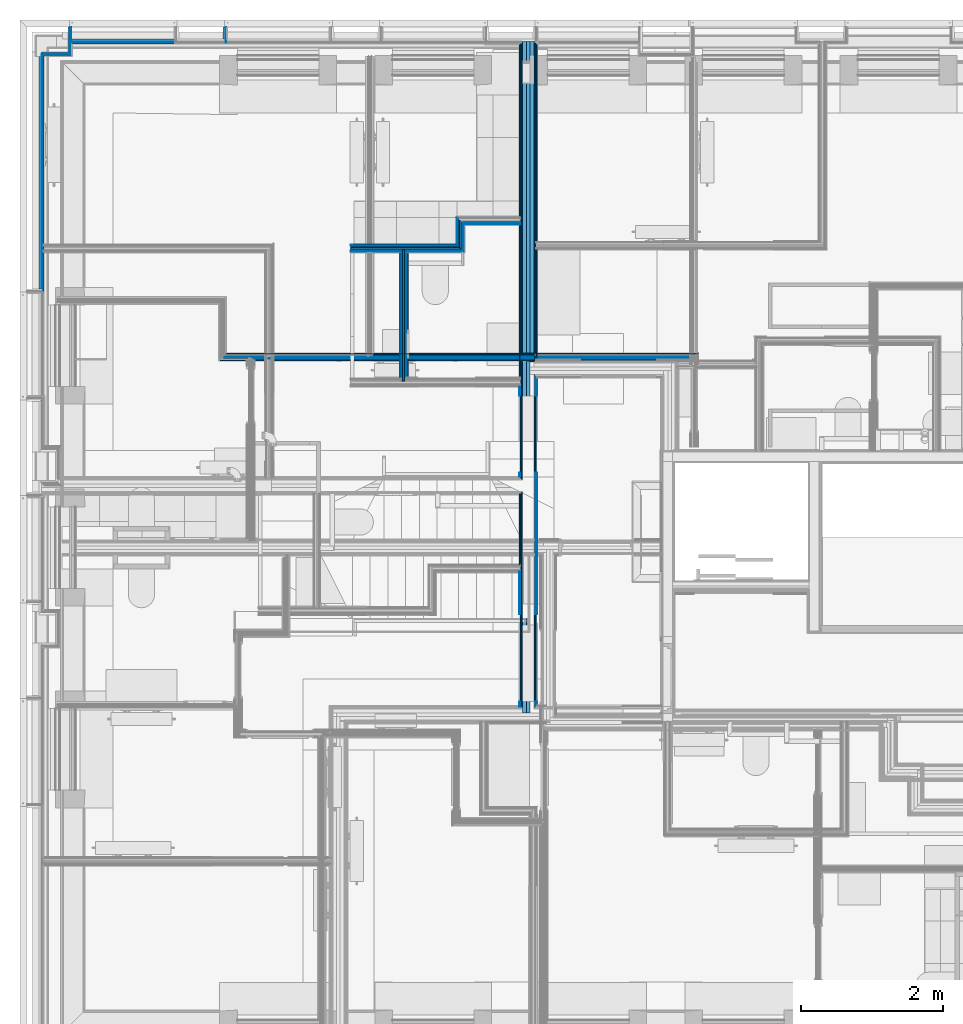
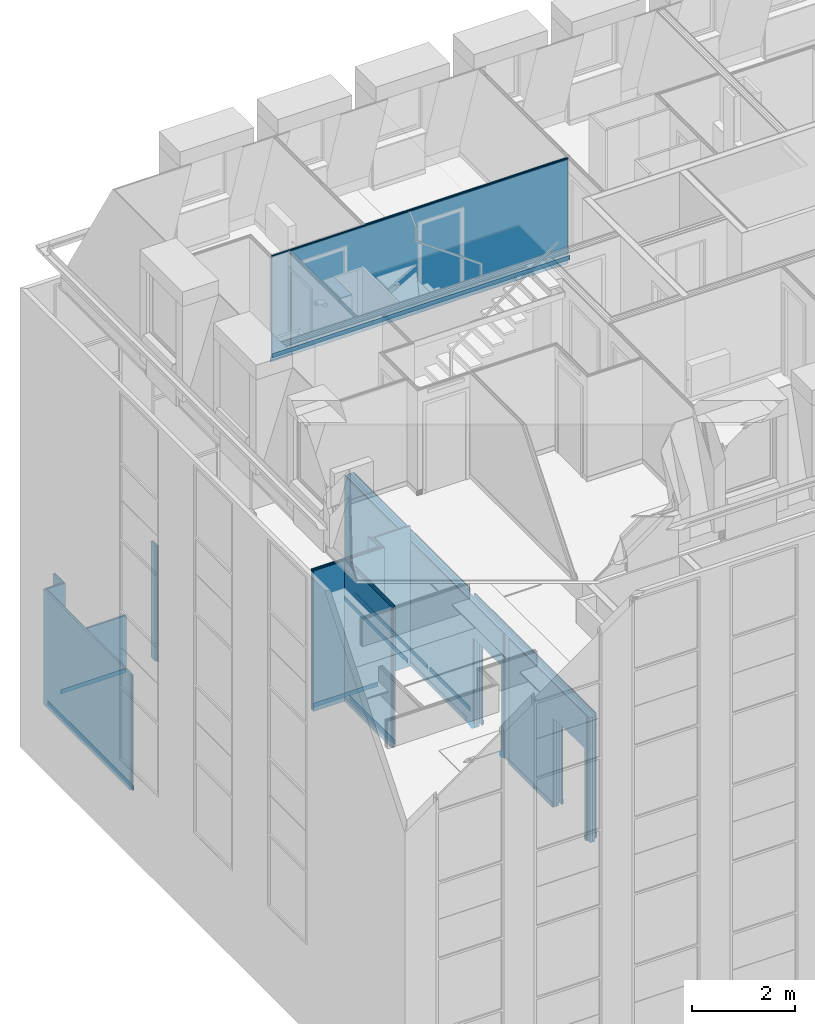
# One storey, part 26 of 169: 62 building element parts, 3 openings, 11 elements without a shape of their own.
"""IFC2X3 building model written with IfcOpenShell, lengths in metres."""

from ifc_helpers import new_model, entity, si_unit, converted_unit, derived_unit, money_unit, direction, frame, frame_2d, origin_with_axes, place, context, subcontext, project, spatial, polyline, rectangle, outline, extrude, material, type_object, element, aggregate, save


model = new_model("IFC2X3")

# Units and contexts
model_context = context("Model", 3, precision=1e-05, world=origin_with_axes(), true_north=direction((0.0, 1.0)))
body_context = subcontext(model_context, "Body", "Model", "MODEL_VIEW", scale=1.0)
ifc_project = project(units=[si_unit("LENGTHUNIT", "METRE"), si_unit("AREAUNIT", "SQUARE_METRE"), si_unit("VOLUMEUNIT", "CUBIC_METRE"), si_unit("ABSORBEDDOSEUNIT", "GRAY"), si_unit("AMOUNTOFSUBSTANCEUNIT", "MOLE"), si_unit("DOSEEQUIVALENTUNIT", "SIEVERT"), si_unit("ELECTRICCAPACITANCEUNIT", "FARAD"), si_unit("ELECTRICCHARGEUNIT", "COULOMB"), si_unit("ELECTRICCONDUCTANCEUNIT", "SIEMENS"), si_unit("ELECTRICCURRENTUNIT", "AMPERE"), si_unit("ELECTRICRESISTANCEUNIT", "OHM"), si_unit("ELECTRICVOLTAGEUNIT", "VOLT"), si_unit("ENERGYUNIT", "JOULE"), si_unit("FORCEUNIT", "NEWTON"), si_unit("FREQUENCYUNIT", "HERTZ"), si_unit("ILLUMINANCEUNIT", "LUX"), si_unit("INDUCTANCEUNIT", "HENRY"), si_unit("LUMINOUSFLUXUNIT", "LUMEN"), si_unit("LUMINOUSINTENSITYUNIT", "CANDELA"), si_unit("MAGNETICFLUXDENSITYUNIT", "TESLA"), si_unit("MAGNETICFLUXUNIT", "WEBER"), si_unit("MASSUNIT", "GRAM"), converted_unit("PLANEANGLEUNIT", "degree", entity("IfcReal", 0.0174532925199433), si_unit("PLANEANGLEUNIT", "RADIAN"), dimensions=[0, 0, 0, 0, 0, 0, 0]), si_unit("POWERUNIT", "WATT"), si_unit("PRESSUREUNIT", "PASCAL"), si_unit("RADIOACTIVITYUNIT", "BECQUEREL"), si_unit("SOLIDANGLEUNIT", "STERADIAN"), si_unit("THERMODYNAMICTEMPERATUREUNIT", "KELVIN"), si_unit("TIMEUNIT", "SECOND"), derived_unit("ACCELERATIONUNIT", [(si_unit("LENGTHUNIT", "METRE"), 1), (si_unit("TIMEUNIT", "SECOND"), -2)]), derived_unit("ANGULARVELOCITYUNIT", [(converted_unit("PLANEANGLEUNIT", "degree", entity("IfcReal", 0.0174532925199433), si_unit("PLANEANGLEUNIT", "RADIAN"), dimensions=[0, 0, 0, 0, 0, 0, 0]), 1), (si_unit("TIMEUNIT", "SECOND"), -1)]), derived_unit("CURVATUREUNIT", [(converted_unit("PLANEANGLEUNIT", "degree", entity("IfcReal", 0.0174532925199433), si_unit("PLANEANGLEUNIT", "RADIAN"), dimensions=[0, 0, 0, 0, 0, 0, 0]), 1), (si_unit("LENGTHUNIT", "METRE"), -1)]), derived_unit("DYNAMICVISCOSITYUNIT", [(si_unit("PRESSUREUNIT", "PASCAL"), 1), (si_unit("TIMEUNIT", "SECOND"), 1)]), derived_unit("HEATFLUXDENSITYUNIT", [(si_unit("POWERUNIT", "WATT"), 1), (si_unit("LENGTHUNIT", "METRE"), -2)]), derived_unit("HEATINGVALUEUNIT", [(si_unit("ENERGYUNIT", "JOULE"), 1), (si_unit("MASSUNIT", "GRAM"), -1)]), derived_unit("INTEGERCOUNTRATEUNIT", [(si_unit("TIMEUNIT", "SECOND"), -1)]), derived_unit("IONCONCENTRATIONUNIT", [(si_unit("MASSUNIT", "GRAM"), 1), (si_unit("VOLUMEUNIT", "CUBIC_METRE"), -1)]), derived_unit("ISOTHERMALMOISTURECAPACITYUNIT", [(si_unit("VOLUMEUNIT", "CUBIC_METRE"), 1), (si_unit("MASSUNIT", "GRAM"), -1)]), derived_unit("KINEMATICVISCOSITYUNIT", [(si_unit("AREAUNIT", "SQUARE_METRE"), 1), (si_unit("TIMEUNIT", "SECOND"), -1)]), derived_unit("LINEARFORCEUNIT", [(si_unit("FORCEUNIT", "NEWTON"), 1), (si_unit("LENGTHUNIT", "METRE"), -1)]), derived_unit("LINEARMOMENTUNIT", [(si_unit("FORCEUNIT", "NEWTON"), 1), (si_unit("LENGTHUNIT", "METRE"), -1)]), derived_unit("LINEARSTIFFNESSUNIT", [(si_unit("FORCEUNIT", "NEWTON"), 1), (si_unit("LENGTHUNIT", "METRE"), -1)]), derived_unit("LINEARVELOCITYUNIT", [(si_unit("LENGTHUNIT", "METRE"), 1), (si_unit("TIMEUNIT", "SECOND"), -1)]), derived_unit("LUMINOUSINTENSITYDISTRIBUTIONUNIT", [(si_unit("LUMINOUSINTENSITYUNIT", "CANDELA"), 1), (si_unit("LUMINOUSFLUXUNIT", "LUMEN"), -1)]), derived_unit("MASSDENSITYUNIT", [(si_unit("MASSUNIT", "GRAM"), 1), (si_unit("VOLUMEUNIT", "CUBIC_METRE"), -1)]), derived_unit("MASSFLOWRATEUNIT", [(si_unit("MASSUNIT", "GRAM"), 1), (si_unit("TIMEUNIT", "SECOND"), -1)]), derived_unit("MASSPERLENGTHUNIT", [(si_unit("MASSUNIT", "GRAM"), 1), (si_unit("LENGTHUNIT", "METRE"), -1)]), derived_unit("MODULUSOFELASTICITYUNIT", [(si_unit("FORCEUNIT", "NEWTON"), 1), (si_unit("AREAUNIT", "SQUARE_METRE"), -1)]), derived_unit("MODULUSOFLINEARSUBGRADEREACTIONUNIT", [(si_unit("FORCEUNIT", "NEWTON"), 1), (si_unit("LENGTHUNIT", "METRE"), -2)]), derived_unit("MODULUSOFROTATIONALSUBGRADEREACTIONUNIT", [(si_unit("FORCEUNIT", "NEWTON"), 1), (si_unit("LENGTHUNIT", "METRE"), 1)]), derived_unit("MODULUSOFSUBGRADEREACTIONUNIT", [(si_unit("FORCEUNIT", "NEWTON"), 1), (si_unit("VOLUMEUNIT", "CUBIC_METRE"), -1)]), derived_unit("MOISTUREDIFFUSIVITYUNIT", [(si_unit("VOLUMEUNIT", "CUBIC_METRE"), 1), (si_unit("TIMEUNIT", "SECOND"), -1)]), derived_unit("MOLECULARWEIGHTUNIT", [(si_unit("MASSUNIT", "GRAM"), 1), (si_unit("AMOUNTOFSUBSTANCEUNIT", "MOLE"), -1)]), derived_unit("PLANARFORCEUNIT", [(si_unit("FORCEUNIT", "NEWTON"), 1), (si_unit("LENGTHUNIT", "METRE"), -2)]), derived_unit("ROTATIONALFREQUENCYUNIT", [(si_unit("TIMEUNIT", "SECOND"), -1)]), derived_unit("ROTATIONALMASSUNIT", [(si_unit("MASSUNIT", "GRAM"), 1), (si_unit("LENGTHUNIT", "METRE"), 2)]), derived_unit("ROTATIONALSTIFFNESSUNIT", [(si_unit("FORCEUNIT", "NEWTON"), 1), (si_unit("LENGTHUNIT", "METRE"), 1), (converted_unit("PLANEANGLEUNIT", "degree", entity("IfcReal", 0.0174532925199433), si_unit("PLANEANGLEUNIT", "RADIAN"), dimensions=[0, 0, 0, 0, 0, 0, 0]), -1)]), derived_unit("SECTIONAREAINTEGRALUNIT", [(si_unit("LENGTHUNIT", "METRE"), 5)]), derived_unit("SECTIONMODULUSUNIT", [(si_unit("LENGTHUNIT", "METRE"), 3)]), derived_unit("SHEARMODULUSUNIT", [(si_unit("FORCEUNIT", "NEWTON"), 1), (si_unit("AREAUNIT", "SQUARE_METRE"), -1)]), derived_unit("SOUNDPOWERUNIT", [(si_unit("ENERGYUNIT", "JOULE"), 1), (si_unit("TIMEUNIT", "SECOND"), -1)]), derived_unit("SPECIFICHEATCAPACITYUNIT", [(si_unit("FORCEUNIT", "NEWTON"), 1), (si_unit("MASSUNIT", "GRAM"), -1), (si_unit("THERMODYNAMICTEMPERATUREUNIT", "KELVIN"), -1)]), derived_unit("TEMPERATUREGRADIENTUNIT", [(si_unit("THERMODYNAMICTEMPERATUREUNIT", "KELVIN"), 1), (si_unit("LENGTHUNIT", "METRE"), -1)]), derived_unit("THERMALADMITTANCEUNIT", [(si_unit("POWERUNIT", "WATT"), 1), (si_unit("AREAUNIT", "SQUARE_METRE"), -1), (si_unit("THERMODYNAMICTEMPERATUREUNIT", "KELVIN"), -1)]), derived_unit("THERMALCONDUCTANCEUNIT", [(si_unit("POWERUNIT", "WATT"), 1), (si_unit("LENGTHUNIT", "METRE"), -1), (si_unit("THERMODYNAMICTEMPERATUREUNIT", "KELVIN"), -1)]), derived_unit("THERMALEXPANSIONCOEFFICIENTUNIT", [(si_unit("THERMODYNAMICTEMPERATUREUNIT", "KELVIN"), -1)]), derived_unit("THERMALRESISTANCEUNIT", [(si_unit("AREAUNIT", "SQUARE_METRE"), 1), (si_unit("POWERUNIT", "WATT"), -1)]), derived_unit("THERMALTRANSMITTANCEUNIT", [(si_unit("POWERUNIT", "WATT"), 1), (si_unit("AREAUNIT", "SQUARE_METRE"), -1), (si_unit("THERMODYNAMICTEMPERATUREUNIT", "KELVIN"), -1)]), derived_unit("TORQUEUNIT", [(si_unit("FORCEUNIT", "NEWTON"), 1), (si_unit("LENGTHUNIT", "METRE"), 1)]), derived_unit("VAPORPERMEABILITYUNIT", [(si_unit("MASSUNIT", "GRAM"), 1), (si_unit("TIMEUNIT", "SECOND"), -1)]), derived_unit("VOLUMETRICFLOWRATEUNIT", [(si_unit("VOLUMEUNIT", "CUBIC_METRE"), 1), (si_unit("TIMEUNIT", "SECOND"), -1)]), derived_unit("WARPINGCONSTANTUNIT", [(si_unit("LENGTHUNIT", "METRE"), 6)]), derived_unit("WARPINGMOMENTUNIT", [(si_unit("FORCEUNIT", "NEWTON"), 1), (si_unit("LENGTHUNIT", "METRE"), 2)]), money_unit("GBP")], contexts=[model_context])

# Site, building, storey
site_placement = place(None, origin_with_axes())
site = spatial("IfcSite", under=ifc_project, at=site_placement, Name="Site", CompositionType="ELEMENT")
building_placement = place(site_placement, origin_with_axes())
building = spatial("IfcBuilding", under=site, at=building_placement, Name="Building01", CompositionType="ELEMENT")
storey_placement = place(building_placement, frame((0.0, 0.0, 5.15), z_axis=(0.0, 0.0, 1.0), x_axis=(1.0, 0.0, 0.0)))
storey = spatial("IfcBuildingStorey", under=building, at=storey_placement, Name="1F", CompositionType="ELEMENT", Elevation=5.15)

# Wall, openings, building element parts
wall_type_1 = type_object("IfcWallType", Name="SHE_A-Walls_Type01c_Partywall_225mm_twin_tall", PredefinedType="NOTDEFINED")
wall_1_placement = place(storey_placement, frame((7.201669, 5.117, 0.0), z_axis=(0.0, 0.0, 1.0), x_axis=(0.0, 1.0, 0.0)))
wall_1 = element("IfcWall", 1, at=wall_1_placement, inside=storey, type_object=wall_type_1, Name="1C", ObjectType="SHE_A-Walls_Type01c_Partywall_225mm_twin_tall")
opening_1_placement = place(wall_1_placement, frame((0.307475, -0.103, -0.03), z_axis=(0.0, 0.0, 1.0), x_axis=(1.0, 0.0, 0.0)))
element("IfcOpeningElement", 2, at=opening_1_placement, cuts=wall_1, Name="Opening", ObjectType="Opening", context=body_context, shape_type="SweptSolid", body=[
    extrude(rectangle(XDim=1.084, YDim=2.142, at=frame_2d((-0.542, 1.071), x_axis=(-1.0, 0.0))), frame((0.0, 0.0, 0.0), z_axis=(0.0, 1.0, 0.0), x_axis=(-1.0, 0.0, 0.0)), (0.0, 0.0, 1.0), 0.255),
])
opening_2_placement = place(wall_1_placement, frame((3.391704, -0.103, 0.0), z_axis=(0.0, 0.0, 1.0), x_axis=(1.0, 0.0, 0.0)))
element("IfcOpeningElement", 3, at=opening_2_placement, cuts=wall_1, Name="Opening", ObjectType="Opening", context=body_context, shape_type="SweptSolid", body=[
    extrude(rectangle(XDim=2.142, YDim=1.084, at=frame_2d((-0.542, 1.071), x_axis=(0.0, -1.0))), frame((0.0, 0.0, 0.0), z_axis=(0.0, 1.0, 0.0), x_axis=(-1.0, 0.0, 0.0)), (0.0, 0.0, 1.0), 0.255),
])
opening_3_placement = place(wall_1_placement, frame((0.157475, -0.103, 0.0), z_axis=(0.0, 0.0, 1.0), x_axis=(1.0, 0.0, 0.0)))
element("IfcOpeningElement", 4, at=opening_3_placement, cuts=wall_1, Name="Opening", ObjectType="Opening", context=body_context, shape_type="SweptSolid", body=[
    extrude(rectangle(XDim=2.142, YDim=1.084, at=frame_2d((-0.542, 1.071), x_axis=(0.0, -1.0))), frame((0.0, 0.0, 0.0), z_axis=(0.0, 1.0, 0.0), x_axis=(-1.0, 0.0, 0.0)), (0.0, 0.0, 1.0), 0.255),
])
ifc_material_1 = material(Name="A_BSUK_Walls_Timber")
placement_1 = place(wall_1_placement, origin_with_axes())
building_element_part_1 = element("IfcBuildingElementPart", 5, at=placement_1, material=ifc_material_1, Name="1", context=body_context, shape_type="SweptSolid", body=[
    extrude(rectangle(XDim=4.657704, YDim=0.015, at=frame_2d((2.416852, -0.0955), x_axis=(-1.0, 0.0))), frame((0.0, 0.0, 0.015), z_axis=(0.0, 0.0, 1.0), x_axis=(1.0, 0.0, 0.0)), (0.0, 0.0, 1.0), 0.1),
])
building_element_part_2 = element("IfcBuildingElementPart", 6, at=placement_1, material=ifc_material_1, Name="2", context=body_context, shape_type="SweptSolid", body=[
    extrude(rectangle(XDim=1.56542, YDim=0.015, at=frame_2d((5.768414, -0.0955), x_axis=(-1.0, 0.0))), frame((0.0, 0.0, 0.015), z_axis=(0.0, 0.0, 1.0), x_axis=(1.0, 0.0, 0.0)), (0.0, 0.0, 1.0), 0.1),
])
building_element_part_3 = element("IfcBuildingElementPart", 7, at=placement_1, material=ifc_material_1, Name="3", context=body_context, shape_type="SweptSolid", body=[
    extrude(rectangle(XDim=2.803876, YDim=0.015, at=frame_2d((8.048062, -0.0955), x_axis=(-1.0, 0.0))), frame((0.0, 0.0, 0.015), z_axis=(0.0, 0.0, 1.0), x_axis=(1.0, 0.0, 0.0)), (0.0, 0.0, 1.0), 0.1),
])
ifc_material_2 = material(Name="A_BSUK_WallInternal_Finishes_Plasterboard")
building_element_part_4 = element("IfcBuildingElementPart", 8, at=placement_1, material=ifc_material_2, Name="4", context=body_context, shape_type="SweptSolid", body=[
    extrude(rectangle(XDim=4.672704, YDim=0.015, at=frame_2d((2.424352, -0.0805), x_axis=(-1.0, 0.0))), origin_with_axes(), (0.0, 0.0, 1.0), 2.95),
])
building_element_part_5 = element("IfcBuildingElementPart", 9, at=placement_1, material=ifc_material_2, Name="5", context=body_context, shape_type="SweptSolid", body=[
    extrude(rectangle(XDim=4.494296, YDim=0.015, at=frame_2d((7.217852, -0.0805), x_axis=(-1.0, 0.0))), origin_with_axes(), (0.0, 0.0, 1.0), 2.95),
])
building_element_part_6 = element("IfcBuildingElementPart", 10, at=placement_1, material=ifc_material_2, Name="6", context=body_context, shape_type="SweptSolid", body=[
    extrude(rectangle(XDim=4.702704, YDim=0.015, at=frame_2d((2.424352, -0.0655), x_axis=(-1.0, 0.0))), origin_with_axes(), (0.0, 0.0, 1.0), 2.95),
])
building_element_part_7 = element("IfcBuildingElementPart", 11, at=placement_1, material=ifc_material_2, Name="7", context=body_context, shape_type="SweptSolid", body=[
    extrude(rectangle(XDim=4.521296, YDim=0.015, at=frame_2d((7.216352, -0.0655), x_axis=(-1.0, 0.0))), origin_with_axes(), (0.0, 0.0, 1.0), 2.95),
])
ifc_material_3 = material(Name="Air Cavity")
building_element_part_8 = element("IfcBuildingElementPart", 12, at=placement_1, material=ifc_material_3, Name="8", context=body_context, shape_type="SweptSolid", body=[
    extrude(rectangle(XDim=4.521296, YDim=0.058, at=frame_2d((7.216352, -0.029), x_axis=(-1.0, 0.0))), origin_with_axes(), (0.0, 0.0, 1.0), 2.95),
])
ifc_material_4 = material(Name="A_BSUK_Insulation")
building_element_part_9 = element("IfcBuildingElementPart", 13, at=placement_1, material=ifc_material_4, Name="9", context=body_context, shape_type="SweptSolid", body=[
    extrude(rectangle(XDim=9.477, YDim=0.05, at=frame_2d((4.7385, 0.025), x_axis=(-1.0, 0.0))), origin_with_axes(), (0.0, 0.0, 1.0), 2.95),
])
building_element_part_10 = element("IfcBuildingElementPart", 14, at=placement_1, material=ifc_material_3, Name="10", context=body_context, shape_type="SweptSolid", body=[
    extrude(rectangle(XDim=9.477, YDim=0.057, at=frame_2d((4.7385, 0.0785), x_axis=(-1.0, 0.0))), origin_with_axes(), (0.0, 0.0, 1.0), 2.95),
])
building_element_part_11 = element("IfcBuildingElementPart", 15, at=placement_1, material=ifc_material_2, Name="11", context=body_context, shape_type="SweptSolid", body=[
    extrude(outline(polyline([(3.10867, 0.122), (0.073, 0.122), (0.073, 0.107), (3.12367, 0.107), (3.10867, 0.122)])), origin_with_axes(), (0.0, 0.0, 1.0), 2.95),
])
building_element_part_12 = element("IfcBuildingElementPart", 16, at=placement_1, material=ifc_material_2, Name="12", context=body_context, shape_type="SweptSolid", body=[
    extrude(outline(polyline([(9.477, 0.122), (3.30367, 0.122), (3.28867, 0.107), (9.477, 0.107), (9.477, 0.122)])), origin_with_axes(), (0.0, 0.0, 1.0), 2.95),
])
building_element_part_13 = element("IfcBuildingElementPart", 17, at=placement_1, material=ifc_material_2, Name="13", context=body_context, shape_type="SweptSolid", body=[
    extrude(rectangle(XDim=3.00567, YDim=0.015, at=frame_2d((1.590835, 0.1295), x_axis=(-1.0, 0.0))), origin_with_axes(), (0.0, 0.0, 1.0), 2.95),
])
building_element_part_14 = element("IfcBuildingElementPart", 18, at=placement_1, material=ifc_material_2, Name="14", context=body_context, shape_type="SweptSolid", body=[
    extrude(outline(polyline([(9.465, 0.137), (3.31867, 0.137), (3.30367, 0.122), (9.465, 0.122), (9.465, 0.137)])), origin_with_axes(), (0.0, 0.0, 1.0), 2.95),
])
building_element_part_15 = element("IfcBuildingElementPart", 19, at=placement_1, material=ifc_material_1, Name="15", context=body_context, shape_type="SweptSolid", body=[
    extrude(rectangle(XDim=1.906475, YDim=0.015, at=frame_2d((1.041238, 0.1445), x_axis=(-1.0, 0.0))), frame((0.0, 0.0, 0.015), z_axis=(0.0, 0.0, 1.0), x_axis=(1.0, 0.0, 0.0)), (0.0, 0.0, 1.0), 0.1),
])
building_element_part_16 = element("IfcBuildingElementPart", 20, at=placement_1, material=ifc_material_1, Name="16", context=body_context, shape_type="SweptSolid", body=[
    extrude(rectangle(XDim=1.27, YDim=0.015, at=frame_2d((3.96867, 0.1445), x_axis=(-1.0, 0.0))), frame((0.0, 0.0, 0.015), z_axis=(0.0, 0.0, 1.0), x_axis=(1.0, 0.0, 0.0)), (0.0, 0.0, 1.0), 0.1),
])
building_element_part_17 = element("IfcBuildingElementPart", 21, at=placement_1, material=ifc_material_1, Name="17", context=body_context, shape_type="SweptSolid", body=[
    extrude(rectangle(XDim=2.45633, YDim=0.015, at=frame_2d((8.221835, 0.1445), x_axis=(-1.0, 0.0))), frame((0.0, 0.0, 0.015), z_axis=(0.0, 0.0, 1.0), x_axis=(1.0, 0.0, 0.0)), (0.0, 0.0, 1.0), 0.1),
])
building_element_part_18 = element("IfcBuildingElementPart", 22, at=placement_1, material=ifc_material_1, Name="18", context=body_context, shape_type="SweptSolid", body=[
    extrude(rectangle(XDim=2.17, YDim=0.015, at=frame_2d((5.81367, 0.1445), x_axis=(-1.0, 0.0))), frame((0.0, 0.0, 0.015), z_axis=(0.0, 0.0, 1.0), x_axis=(1.0, 0.0, 0.0)), (0.0, 0.0, 1.0), 0.1),
])
building_element_part_19 = element("IfcBuildingElementPart", 23, at=placement_1, material=ifc_material_1, Name="19", context=body_context, shape_type="SweptSolid", body=[
    extrude(rectangle(XDim=1.004195, YDim=0.015, at=frame_2d((2.591572, 0.1445), x_axis=(-1.0, 0.0))), frame((0.0, 0.0, 0.015), z_axis=(0.0, 0.0, 1.0), x_axis=(1.0, 0.0, 0.0)), (0.0, 0.0, 1.0), 0.1),
])
aggregate(wall_1, [building_element_part_1, building_element_part_2, building_element_part_3, building_element_part_4, building_element_part_5, building_element_part_6, building_element_part_7, building_element_part_8, building_element_part_9, building_element_part_10, building_element_part_11, building_element_part_12, building_element_part_13, building_element_part_14, building_element_part_15, building_element_part_16, building_element_part_17, building_element_part_18, building_element_part_19])

# Wall, building element parts
wall_type_2 = type_object("IfcWallType", Name="SHE_A-Walls_Type05a_Partition_95mm_tall", PredefinedType="NOTDEFINED")
wall_2_placement = place(storey_placement, frame((6.229669, 11.66567, 0.0), z_axis=(0.0, 0.0, 1.0), x_axis=(0.0, 1.0, 0.0)))
wall_2 = element("IfcWall", 24, at=wall_2_placement, inside=storey, type_object=wall_type_2, Name="5A", ObjectType="SHE_A-Walls_Type05a_Partition_95mm_tall")
placement_2 = place(wall_2_placement, origin_with_axes())
building_element_part_20 = element("IfcBuildingElementPart", 25, at=placement_2, material=ifc_material_2, Name="2", context=body_context, shape_type="SweptSolid", body=[
    extrude(outline(polyline([(0.35, -0.023), (-0.023, -0.023), (-0.035, -0.035), (0.35, -0.035), (0.35, -0.023)])), origin_with_axes(), (0.0, 0.0, 1.0), 3.32),
])
building_element_part_21 = element("IfcBuildingElementPart", 26, at=placement_2, material=ifc_material_3, Name="3", context=body_context, shape_type="SweptSolid", body=[
    extrude(outline(polyline([(0.35, 0.0), (0.0, 0.0), (-0.023, -0.023), (0.35, -0.023), (0.35, 0.0)])), origin_with_axes(), (0.0, 0.0, 1.0), 3.32),
])
building_element_part_22 = element("IfcBuildingElementPart", 27, at=placement_2, material=ifc_material_4, Name="4", context=body_context, shape_type="SweptSolid", body=[
    extrude(outline(polyline([(0.41, 0.025), (0.025, 0.025), (0.0, 0.0), (0.385, 0.0), (0.41, 0.025)])), origin_with_axes(), (0.0, 0.0, 1.0), 3.32),
])
building_element_part_23 = element("IfcBuildingElementPart", 28, at=placement_2, material=ifc_material_3, Name="5", context=body_context, shape_type="SweptSolid", body=[
    extrude(outline(polyline([(0.433, 0.048), (0.048, 0.048), (0.025, 0.025), (0.41, 0.025), (0.433, 0.048)])), origin_with_axes(), (0.0, 0.0, 1.0), 3.32),
])
building_element_part_24 = element("IfcBuildingElementPart", 29, at=placement_2, material=ifc_material_2, Name="6", context=body_context, shape_type="SweptSolid", body=[
    extrude(outline(polyline([(0.445, 0.06), (0.06, 0.06), (0.048, 0.048), (0.433, 0.048), (0.445, 0.06)])), origin_with_axes(), (0.0, 0.0, 1.0), 3.32),
])
aggregate(wall_2, [building_element_part_20, building_element_part_21, building_element_part_22, building_element_part_23, building_element_part_24])

wall_3_placement = place(storey_placement, frame((6.229669, 12.05067, 0.0), z_axis=(0.0, 0.0, 1.0), x_axis=(1.0, 0.0, 0.0)))
wall_3 = element("IfcWall", 30, at=wall_3_placement, inside=storey, type_object=wall_type_2, Name="5A", ObjectType="SHE_A-Walls_Type05a_Partition_95mm_tall")
placement_3 = place(wall_3_placement, origin_with_axes())
building_element_part_25 = element("IfcBuildingElementPart", 31, at=placement_3, material=ifc_material_2, Name="2", context=body_context, shape_type="SweptSolid", body=[
    extrude(rectangle(XDim=0.812, YDim=0.012, at=frame_2d((0.429, -0.029), x_axis=(-1.0, 0.0))), origin_with_axes(), (0.0, 0.0, 1.0), 3.32),
])
building_element_part_26 = element("IfcBuildingElementPart", 32, at=placement_3, material=ifc_material_3, Name="3", context=body_context, shape_type="SweptSolid", body=[
    extrude(rectangle(XDim=0.812, YDim=0.023, at=frame_2d((0.429, -0.0115), x_axis=(-1.0, 0.0))), origin_with_axes(), (0.0, 0.0, 1.0), 3.32),
])
aggregate(wall_3, [building_element_part_25, building_element_part_26])

wall_4_placement = place(storey_placement, frame((4.669669, 11.66567, 0.0), z_axis=(0.0, 0.0, 1.0), x_axis=(1.0, 0.0, 0.0)))
wall_4 = element("IfcWall", 33, at=wall_4_placement, inside=storey, type_object=wall_type_2, Name="5A", ObjectType="SHE_A-Walls_Type05a_Partition_95mm_tall")
placement_4 = place(wall_4_placement, origin_with_axes())
building_element_part_27 = element("IfcBuildingElementPart", 34, at=placement_4, material=ifc_material_2, Name="3", context=body_context, shape_type="SweptSolid", body=[
    extrude(rectangle(XDim=0.712, YDim=0.012, at=frame_2d((0.356, -0.029), x_axis=(-1.0, 0.0))), origin_with_axes(), (0.0, 0.0, 1.0), 3.32),
])
building_element_part_28 = element("IfcBuildingElementPart", 35, at=placement_4, material=ifc_material_2, Name="4", context=body_context, shape_type="SweptSolid", body=[
    extrude(outline(polyline([(1.583, -0.023), (0.783, -0.023), (0.783, -0.035), (1.595, -0.035), (1.583, -0.023)])), origin_with_axes(), (0.0, 0.0, 1.0), 3.32),
])
building_element_part_29 = element("IfcBuildingElementPart", 36, at=placement_4, material=ifc_material_3, Name="5", context=body_context, shape_type="SweptSolid", body=[
    extrude(outline(polyline([(1.56, 0.0), (0.783, 0.0), (0.783, -0.023), (1.583, -0.023), (1.56, 0.0)])), origin_with_axes(), (0.0, 0.0, 1.0), 3.32),
])
building_element_part_30 = element("IfcBuildingElementPart", 37, at=placement_4, material=ifc_material_4, Name="6", context=body_context, shape_type="SweptSolid", body=[
    extrude(outline(polyline([(1.535, 0.025), (0.0, 0.025), (0.0, 0.0), (1.56, 0.0), (1.535, 0.025)])), origin_with_axes(), (0.0, 0.0, 1.0), 3.32),
])
building_element_part_31 = element("IfcBuildingElementPart", 38, at=placement_4, material=ifc_material_3, Name="7", context=body_context, shape_type="SweptSolid", body=[
    extrude(outline(polyline([(1.512, 0.048), (0.0, 0.048), (0.0, 0.025), (1.535, 0.025), (1.512, 0.048)])), origin_with_axes(), (0.0, 0.0, 1.0), 3.32),
])
building_element_part_32 = element("IfcBuildingElementPart", 39, at=placement_4, material=ifc_material_2, Name="8", context=body_context, shape_type="SweptSolid", body=[
    extrude(outline(polyline([(1.5, 0.06), (0.0, 0.06), (0.0, 0.048), (1.512, 0.048), (1.5, 0.06)])), origin_with_axes(), (0.0, 0.0, 1.0), 3.32),
])
building_element_part_33 = element("IfcBuildingElementPart", 40, at=placement_4, material=ifc_material_1, Name="9", context=body_context, shape_type="SweptSolid", body=[
    extrude(outline(polyline([(1.485, 0.075), (0.05, 0.075), (0.05, 0.06), (1.5, 0.06), (1.485, 0.075)])), frame((0.0, 0.0, 0.015), z_axis=(0.0, 0.0, 1.0), x_axis=(1.0, 0.0, 0.0)), (0.0, 0.0, 1.0), 0.1),
])
aggregate(wall_4, [building_element_part_27, building_element_part_28, building_element_part_29, building_element_part_30, building_element_part_31, building_element_part_32, building_element_part_33])

wall_5_placement = place(storey_placement, frame((5.429669, 9.79567, 0.0), z_axis=(0.0, 0.0, 1.0), x_axis=(0.0, 1.0, 0.0)))
wall_5 = element("IfcWall", 41, at=wall_5_placement, inside=storey, type_object=wall_type_2, Name="5A", ObjectType="SHE_A-Walls_Type05a_Partition_95mm_tall")
placement_5 = place(wall_5_placement, origin_with_axes())
building_element_part_34 = element("IfcBuildingElementPart", 42, at=placement_5, material=ifc_material_1, Name="1", context=body_context, shape_type="SweptSolid", body=[
    extrude(rectangle(XDim=1.77, YDim=0.015, at=frame_2d((0.935, -0.0425), x_axis=(-1.0, 0.0))), frame((0.0, 0.0, 0.015), z_axis=(0.0, 0.0, 1.0), x_axis=(1.0, 0.0, 0.0)), (0.0, 0.0, 1.0), 0.1),
])
building_element_part_35 = element("IfcBuildingElementPart", 43, at=placement_5, material=ifc_material_2, Name="2", context=body_context, shape_type="SweptSolid", body=[
    extrude(rectangle(XDim=1.8, YDim=0.012, at=frame_2d((0.935, -0.029), x_axis=(-1.0, 0.0))), origin_with_axes(), (0.0, 0.0, 1.0), 3.32),
])
building_element_part_36 = element("IfcBuildingElementPart", 44, at=placement_5, material=ifc_material_3, Name="3", context=body_context, shape_type="SweptSolid", body=[
    extrude(rectangle(XDim=1.8, YDim=0.023, at=frame_2d((0.935, -0.0115), x_axis=(-1.0, 0.0))), origin_with_axes(), (0.0, 0.0, 1.0), 3.32),
])
building_element_part_37 = element("IfcBuildingElementPart", 45, at=placement_5, material=ifc_material_4, Name="4", context=body_context, shape_type="SweptSolid", body=[
    extrude(rectangle(XDim=1.87, YDim=0.025, at=frame_2d((0.935, 0.0125), x_axis=(-1.0, 0.0))), origin_with_axes(), (0.0, 0.0, 1.0), 3.32),
])
building_element_part_38 = element("IfcBuildingElementPart", 46, at=placement_5, material=ifc_material_3, Name="5", context=body_context, shape_type="SweptSolid", body=[
    extrude(rectangle(XDim=1.87, YDim=0.023, at=frame_2d((0.935, 0.0365), x_axis=(-1.0, 0.0))), origin_with_axes(), (0.0, 0.0, 1.0), 3.32),
])
building_element_part_39 = element("IfcBuildingElementPart", 47, at=placement_5, material=ifc_material_2, Name="6", context=body_context, shape_type="SweptSolid", body=[
    extrude(rectangle(XDim=1.8, YDim=0.012, at=frame_2d((0.935, 0.054), x_axis=(-1.0, 0.0))), origin_with_axes(), (0.0, 0.0, 1.0), 3.32),
])
building_element_part_40 = element("IfcBuildingElementPart", 48, at=placement_5, material=ifc_material_1, Name="7", context=body_context, shape_type="SweptSolid", body=[
    extrude(rectangle(XDim=1.77, YDim=0.015, at=frame_2d((0.935, 0.0675), x_axis=(-1.0, 0.0))), frame((0.0, 0.0, 0.015), z_axis=(0.0, 0.0, 1.0), x_axis=(1.0, 0.0, 0.0)), (0.0, 0.0, 1.0), 0.1),
])
aggregate(wall_5, [building_element_part_34, building_element_part_35, building_element_part_36, building_element_part_37, building_element_part_38, building_element_part_39, building_element_part_40])

wall_type_3 = type_object("IfcWallType", Name="SHE_A-Walls_Type06d_ExternalWallInsulation_48mm", PredefinedType="NOTDEFINED")
wall_6_placement = place(storey_placement, frame((2.903, 14.63, 0.0), z_axis=(0.0, 0.0, 1.0), x_axis=(0.0, 1.0, 0.0)))
wall_6 = element("IfcWall", 49, at=wall_6_placement, inside=storey, type_object=wall_type_3, Name="6D", ObjectType="SHE_A-Walls_Type06d_ExternalWallInsulation_48mm")
placement_6 = place(wall_6_placement, origin_with_axes())
building_element_part_41 = element("IfcBuildingElementPart", 50, at=placement_6, material=ifc_material_2, Name="2", context=body_context, shape_type="SweptSolid", body=[
    extrude(outline(polyline([(-0.035, 0.001), (-0.048, -0.012), (0.17, -0.012), (0.17, 0.001), (-0.035, 0.001)])), origin_with_axes(), (0.0, 0.0, 1.0), 2.74),
])
building_element_part_42 = element("IfcBuildingElementPart", 51, at=placement_6, material=ifc_material_4, Name="3", context=body_context, shape_type="SweptSolid", body=[
    extrude(rectangle(XDim=0.036, YDim=0.17, at=frame_2d((0.085, 0.018), x_axis=(0.0, -1.0))), origin_with_axes(), (0.0, 0.0, 1.0), 2.74),
])
aggregate(wall_6, [building_element_part_41, building_element_part_42])

wall_7_placement = place(storey_placement, frame((2.195, 14.594, 0.0), z_axis=(0.0, 0.0, 1.0), x_axis=(-1.0, 0.0, 0.0)))
wall_7 = element("IfcWall", 52, at=wall_7_placement, inside=storey, type_object=wall_type_3, Name="6D", ObjectType="SHE_A-Walls_Type06d_ExternalWallInsulation_48mm")
placement_7 = place(wall_7_placement, origin_with_axes())
building_element_part_43 = element("IfcBuildingElementPart", 53, at=placement_7, material=ifc_material_4, Name="1", context=body_context, shape_type="SweptSolid", body=[
    extrude(rectangle(XDim=1.47, YDim=0.036, at=frame_2d((0.735, -0.018), x_axis=(-1.0, 0.0))), origin_with_axes(), (0.0, 0.0, 1.0), 1.35),
])
building_element_part_44 = element("IfcBuildingElementPart", 54, at=placement_7, material=ifc_material_2, Name="2", context=body_context, shape_type="SweptSolid", body=[
    extrude(rectangle(XDim=1.47, YDim=0.013, at=frame_2d((0.735, 0.0055), x_axis=(-1.0, 0.0))), origin_with_axes(), (0.0, 0.0, 1.0), 1.35),
])
building_element_part_45 = element("IfcBuildingElementPart", 55, at=placement_7, material=ifc_material_1, Name="3", context=body_context, shape_type="SweptSolid", body=[
    extrude(rectangle(XDim=1.455, YDim=0.015, at=frame_2d((0.7425, 0.0195), x_axis=(-1.0, 0.0))), frame((0.0, 0.0, 0.015), z_axis=(0.0, 0.0, 1.0), x_axis=(1.0, 0.0, 0.0)), (0.0, 0.0, 1.0), 0.1),
])
aggregate(wall_7, [building_element_part_43, building_element_part_44, building_element_part_45])

wall_8_placement = place(storey_placement, frame((0.677, 14.800002, 0.0), z_axis=(0.0, 0.0, 1.0), x_axis=(0.0, -1.0, 0.0)))
wall_8 = element("IfcWall", 56, at=wall_8_placement, inside=storey, type_object=wall_type_3, Name="6D", ObjectType="SHE_A-Walls_Type06d_ExternalWallInsulation_48mm")
placement_8 = place(wall_8_placement, origin_with_axes())
building_element_part_46 = element("IfcBuildingElementPart", 57, at=placement_8, material=ifc_material_4, Name="1", context=body_context, shape_type="SweptSolid", body=[
    extrude(rectangle(XDim=0.350002, YDim=0.036, at=frame_2d((0.175001, 0.018), x_axis=(-1.0, 0.0))), origin_with_axes(), (0.0, 0.0, 1.0), 2.74),
])
building_element_part_47 = element("IfcBuildingElementPart", 58, at=placement_8, material=ifc_material_2, Name="2", context=body_context, shape_type="SweptSolid", body=[
    extrude(outline(polyline([(0.398002, 0.048), (0.0, 0.048), (0.0, 0.035), (0.385002, 0.035), (0.398002, 0.048)])), origin_with_axes(), (0.0, 0.0, 1.0), 2.74),
])
aggregate(wall_8, [building_element_part_46, building_element_part_47])

wall_9_placement = place(storey_placement, frame((0.713, 14.45, 0.0), z_axis=(0.0, 0.0, 1.0), x_axis=(-1.0, 0.0, 0.0)))
wall_9 = element("IfcWall", 59, at=wall_9_placement, inside=storey, type_object=wall_type_3, Name="6D", ObjectType="SHE_A-Walls_Type06d_ExternalWallInsulation_48mm")
placement_9 = place(wall_9_placement, origin_with_axes())
building_element_part_48 = element("IfcBuildingElementPart", 60, at=placement_9, material=ifc_material_4, Name="1", context=body_context, shape_type="SweptSolid", body=[
    extrude(rectangle(XDim=0.407, YDim=0.036, at=frame_2d((0.2035, 0.018), x_axis=(-1.0, 0.0))), origin_with_axes(), (0.0, 0.0, 1.0), 2.74),
])
building_element_part_49 = element("IfcBuildingElementPart", 61, at=placement_9, material=ifc_material_2, Name="2", context=body_context, shape_type="SweptSolid", body=[
    extrude(outline(polyline([(0.395, 0.048), (-0.012, 0.048), (0.001, 0.035), (0.395, 0.035), (0.395, 0.048)])), origin_with_axes(), (0.0, 0.0, 1.0), 2.74),
])
aggregate(wall_9, [building_element_part_48, building_element_part_49])

wall_10_placement = place(storey_placement, frame((0.27, 14.45, 0.0), z_axis=(0.0, 0.0, 1.0), x_axis=(0.0, -1.0, 0.0)))
wall_10 = element("IfcWall", 62, at=wall_10_placement, inside=storey, type_object=wall_type_3, Name="6D", ObjectType="SHE_A-Walls_Type06d_ExternalWallInsulation_48mm")
placement_10 = place(wall_10_placement, origin_with_axes())
building_element_part_50 = element("IfcBuildingElementPart", 63, at=placement_10, material=ifc_material_4, Name="1", context=body_context, shape_type="SweptSolid", body=[
    extrude(rectangle(XDim=3.347, YDim=0.036, at=frame_2d((1.6735, 0.018), x_axis=(-1.0, 0.0))), origin_with_axes(), (0.0, 0.0, 1.0), 2.74),
])
building_element_part_51 = element("IfcBuildingElementPart", 64, at=placement_10, material=ifc_material_2, Name="2", context=body_context, shape_type="SweptSolid", body=[
    extrude(outline(polyline([(3.395, 0.048), (0.035, 0.048), (0.035, 0.035), (3.382, 0.035), (3.395, 0.048)])), origin_with_axes(), (0.0, 0.0, 1.0), 2.74),
])
building_element_part_52 = element("IfcBuildingElementPart", 65, at=placement_10, material=ifc_material_1, Name="3", context=body_context, shape_type="SweptSolid", body=[
    extrude(rectangle(XDim=3.332, YDim=0.015, at=frame_2d((1.729, 0.0555), x_axis=(-1.0, 0.0))), frame((0.0, 0.0, 0.015), z_axis=(0.0, 0.0, 1.0), x_axis=(1.0, 0.0, 0.0)), (0.0, 0.0, 1.0), 0.1),
])
aggregate(wall_10, [building_element_part_50, building_element_part_51, building_element_part_52])

wall_type_4 = type_object("IfcWallType", Name="SHE_A-Walls_Type05b_Partition_80mm", PredefinedType="NOTDEFINED")
wall_11_placement = place(storey_placement, frame((2.872, 10.126939, 9.83), z_axis=(0.0, 0.0, 1.0), x_axis=(1.0, 0.0, 0.0)))
wall_11 = element("IfcWall", 66, at=wall_11_placement, inside=storey, type_object=wall_type_4, Name="5B", ObjectType="SHE_A-Walls_Type05b_Partition_80mm")
placement_11 = place(wall_11_placement, origin_with_axes())
building_element_part_53 = element("IfcBuildingElementPart", 67, at=placement_11, material=ifc_material_1, Name="1", context=body_context, shape_type="SweptSolid", body=[
    extrude(outline(polyline([(6.608024, -0.027), (-0.052, -0.027), (-0.052, -0.042), (6.593024, -0.042), (6.608024, -0.027)])), frame((0.0, 0.0, 0.015), z_axis=(0.0, 0.0, 1.0), x_axis=(1.0, 0.0, 0.0)), (0.0, 0.0, 1.0), 0.1),
])
building_element_part_54 = element("IfcBuildingElementPart", 68, at=placement_11, material=ifc_material_1, Name="2", context=body_context, shape_type="SweptSolid", body=[
    extrude(outline(polyline([(6.608024, -0.027), (0.428, -0.027), (0.428, -0.042), (6.593024, -0.042), (6.608024, -0.027)])), frame((0.0, 0.0, 0.015), z_axis=(0.0, 0.0, 1.0), x_axis=(1.0, 0.0, 0.0)), (0.0, 0.0, 1.0), 0.1),
])
building_element_part_55 = element("IfcBuildingElementPart", 69, at=placement_11, material=ifc_material_2, Name="4", context=body_context, shape_type="SweptSolid", body=[
    extrude(rectangle(XDim=6.195024, YDim=0.015, at=frame_2d((3.510512, -0.0195), x_axis=(-1.0, 0.0))), origin_with_axes(), (0.0, 0.0, 1.0), 2.468),
])
building_element_part_56 = element("IfcBuildingElementPart", 70, at=placement_11, material=ifc_material_3, Name="5", context=body_context, shape_type="SweptSolid", body=[
    extrude(rectangle(XDim=6.195024, YDim=0.012, at=frame_2d((3.510512, -0.006), x_axis=(-1.0, 0.0))), origin_with_axes(), (0.0, 0.0, 1.0), 2.468),
])
building_element_part_57 = element("IfcBuildingElementPart", 71, at=placement_11, material=ifc_material_4, Name="6", context=body_context, shape_type="SweptSolid", body=[
    extrude(rectangle(XDim=6.636024, YDim=0.025, at=frame_2d((3.318012, 0.0125), x_axis=(-1.0, 0.0))), origin_with_axes(), (0.0, 0.0, 1.0), 2.468),
])
building_element_part_58 = element("IfcBuildingElementPart", 72, at=placement_11, material=ifc_material_3, Name="7", context=body_context, shape_type="SweptSolid", body=[
    extrude(rectangle(XDim=6.636024, YDim=0.013, at=frame_2d((3.318012, 0.0315), x_axis=(-1.0, 0.0))), origin_with_axes(), (0.0, 0.0, 1.0), 2.468),
])
building_element_part_59 = element("IfcBuildingElementPart", 73, at=placement_11, material=ifc_material_2, Name="10", context=body_context, shape_type="SweptSolid", body=[
    extrude(rectangle(XDim=4.5, YDim=0.015, at=frame_2d((4.358024, 0.0455), x_axis=(-1.0, 0.0))), origin_with_axes(), (0.0, 0.0, 1.0), 2.468),
])
building_element_part_60 = element("IfcBuildingElementPart", 74, at=placement_11, material=ifc_material_1, Name="12", context=body_context, shape_type="SweptSolid", body=[
    extrude(outline(polyline([(6.703024, 0.068), (0.043, 0.068), (0.028, 0.053), (6.688024, 0.053), (6.703024, 0.068)])), frame((0.0, 0.0, 0.015), z_axis=(0.0, 0.0, 1.0), x_axis=(1.0, 0.0, 0.0)), (0.0, 0.0, 1.0), 0.1),
])
building_element_part_61 = element("IfcBuildingElementPart", 75, at=placement_11, material=ifc_material_1, Name="13", context=body_context, shape_type="SweptSolid", body=[
    extrude(outline(polyline([(6.703024, 0.068), (0.043, 0.068), (0.028, 0.053), (6.688024, 0.053), (6.703024, 0.068)])), frame((0.0, 0.0, 0.015), z_axis=(0.0, 0.0, 1.0), x_axis=(1.0, 0.0, 0.0)), (0.0, 0.0, 1.0), 0.1),
])
building_element_part_62 = element("IfcBuildingElementPart", 76, at=placement_11, material=ifc_material_1, Name="14", context=body_context, shape_type="SweptSolid", body=[
    extrude(outline(polyline([(6.703024, 0.068), (0.043, 0.068), (0.043, 0.053), (6.688024, 0.053), (6.703024, 0.068)])), frame((0.0, 0.0, 0.015), z_axis=(0.0, 0.0, 1.0), x_axis=(1.0, 0.0, 0.0)), (0.0, 0.0, 1.0), 0.1),
])
aggregate(wall_11, [building_element_part_53, building_element_part_54, building_element_part_55, building_element_part_56, building_element_part_57, building_element_part_58, building_element_part_59, building_element_part_60, building_element_part_61, building_element_part_62])

save(model, "model.ifc")
